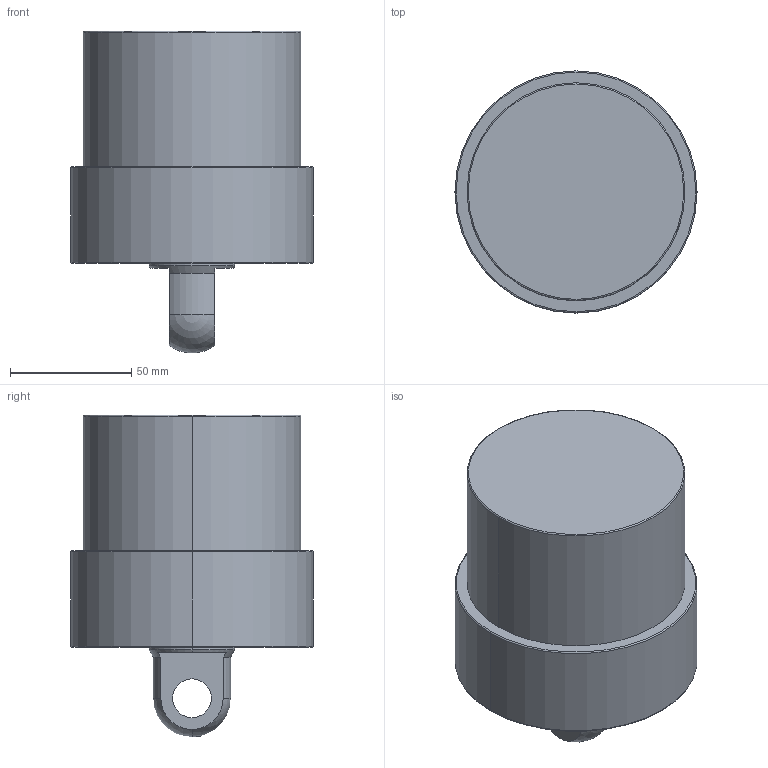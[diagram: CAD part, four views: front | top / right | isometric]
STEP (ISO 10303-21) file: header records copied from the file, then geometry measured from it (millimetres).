
FILE_DESCRIPTION (( 'STEP AP203' ), '1' );
FILE_NAME ('CLLU-090CP-035.STEP', '2020-01-13T03:14:56', ( '' ), ( '' ), 'SwSTEP 2.0', 'SolidWorks 2015', '' );
FILE_SCHEMA (( 'CONFIG_CONTROL_DESIGN' ));
Length unit declared in the file: millimetre
Products named in the file (1): CLLU-090CP-035
Bounding box: 100 x 100 x 133 mm (x, y, z)
Volume: 680099.7 mm3; surface area: 49968.5 mm2
Topology: 1 solids, 1 shells, 57 faces, 134 edges, 77 vertices
Faces by surface type: cylinder 22, cone 18, plane 9, torus 6, sphere 2
Entity records: 1643 total; most frequent: DIRECTION 308, CARTESIAN_POINT 267, ORIENTED_EDGE 244, AXIS2_PLACEMENT_3D 132, EDGE_CURVE 122, VERTEX_POINT 75, CIRCLE 74, EDGE_LOOP 67
